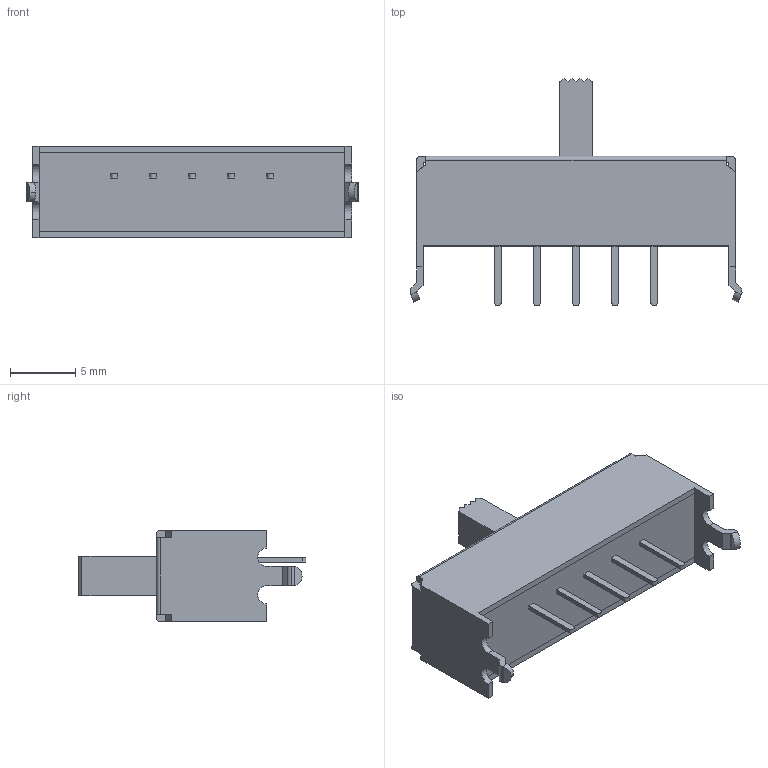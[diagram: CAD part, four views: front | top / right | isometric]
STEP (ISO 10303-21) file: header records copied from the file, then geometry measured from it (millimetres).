
FILE_DESCRIPTION (( 'STEP AP214' ), '1' );
FILE_NAME ('SSSU014800.STEP', '2011-04-04T07:02:21', ( '' ), ( '' ), 'SwSTEP 2.0', 'SolidWorks 2007', '' );
FILE_SCHEMA (( 'AUTOMOTIVE_DESIGN' ));
Length unit declared in the file: millimetre
Products named in the file (1): SSSU014800
Bounding box: 25.5 x 17.5 x 7 mm (x, y, z)
Volume: 1221.1 mm3; surface area: 984.5 mm2
Topology: 1 solids, 1 shells, 111 faces, 310 edges, 204 vertices
Faces by surface type: plane 85, cylinder 26
Entity records: 4018 total; most frequent: CARTESIAN_POINT 626, ORIENTED_EDGE 620, DIRECTION 590, EDGE_CURVE 310, VECTOR 254, LINE 254, VERTEX_POINT 204, AXIS2_PLACEMENT_3D 168
